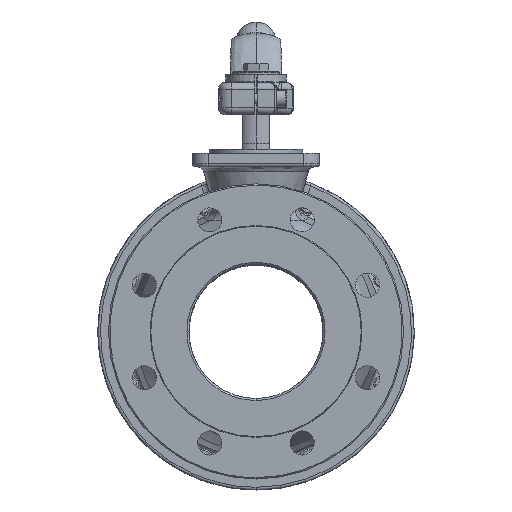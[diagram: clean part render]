
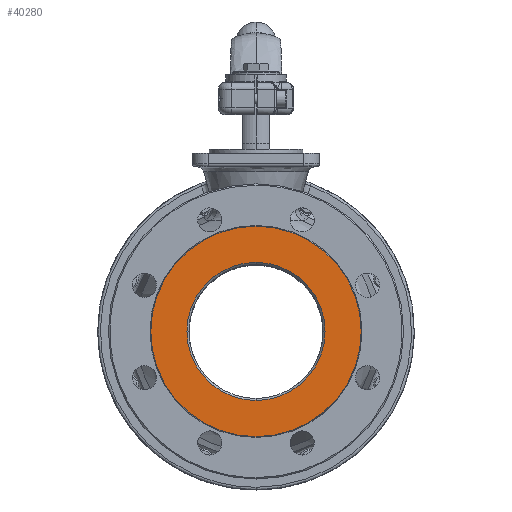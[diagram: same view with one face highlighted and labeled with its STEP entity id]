
A CAD part, top view. The second image highlights one B-rep face of the part: STEP entity #40280.
In plain terms, the highlighted planar face has unit normal (0, 0, 1) as drawn and (0, -1, 0) by its records, which use the part's own axes.
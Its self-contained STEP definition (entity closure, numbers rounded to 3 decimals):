
#1611 = FACE_OUTER_BOUND ( 'NONE', #18026, .T. ) ;
#2342 = AXIS2_PLACEMENT_3D ( 'NONE', #36903, #17457, #40183 ) ;
#4089 = ORIENTED_EDGE ( 'NONE', *, *, #7614, .F. ) ;
#5071 = CIRCLE ( 'NONE', #24831, 78.464 ) ;
#6629 = DIRECTION ( 'NONE',  ( 0., -1., 0. ) ) ;
#7527 = VERTEX_POINT ( 'NONE', #32490 ) ;
#7614 = EDGE_CURVE ( 'NONE', #7527, #13626, #42167, .T. ) ;
#8034 = DIRECTION ( 'NONE',  ( 0., 0., -1. ) ) ;
#9266 = EDGE_CURVE ( 'NONE', #34517, #14663, #17742, .T. ) ;
#13626 = VERTEX_POINT ( 'NONE', #19838 ) ;
#14663 = VERTEX_POINT ( 'NONE', #41207 ) ;
#17457 = DIRECTION ( 'NONE',  ( 0., -1., 0. ) ) ;
#17516 = DIRECTION ( 'NONE',  ( 0., -1., 0. ) ) ;
#17742 = CIRCLE ( 'NONE', #2342, 78.464 ) ;
#18026 = EDGE_LOOP ( 'NONE', ( #20690, #26593 ) ) ;
#18058 = DIRECTION ( 'NONE',  ( 0., -1., 0. ) ) ;
#19253 = FACE_BOUND ( 'NONE', #33770, .T. ) ;
#19838 = CARTESIAN_POINT ( 'NONE',  ( -0.006, -69., -60.464 ) ) ;
#20372 = AXIS2_PLACEMENT_3D ( 'NONE', #26282, #6629, #29544 ) ;
#20690 = ORIENTED_EDGE ( 'NONE', *, *, #9266, .T. ) ;
#21155 = CARTESIAN_POINT ( 'NONE',  ( -0.006, -69., -48.196 ) ) ;
#21996 = CIRCLE ( 'NONE', #29167, 51.5 ) ;
#22466 = ORIENTED_EDGE ( 'NONE', *, *, #34527, .F. ) ;
#23925 = CARTESIAN_POINT ( 'NONE',  ( -78.47, -69., -8.964 ) ) ;
#24831 = AXIS2_PLACEMENT_3D ( 'NONE', #37494, #18058, #40774 ) ;
#26282 = CARTESIAN_POINT ( 'NONE',  ( -0.006, -69., -8.964 ) ) ;
#26593 = ORIENTED_EDGE ( 'NONE', *, *, #31469, .T. ) ;
#27522 = PLANE ( 'NONE',  #42010 ) ;
#27662 = DIRECTION ( 'NONE',  ( 0., -1., 0. ) ) ;
#29167 = AXIS2_PLACEMENT_3D ( 'NONE', #36960, #17516, #40237 ) ;
#29544 = DIRECTION ( 'NONE',  ( 0., 0., -1. ) ) ;
#31469 = EDGE_CURVE ( 'NONE', #14663, #34517, #5071, .T. ) ;
#32490 = CARTESIAN_POINT ( 'NONE',  ( -0.006, -69., 42.536 ) ) ;
#33770 = EDGE_LOOP ( 'NONE', ( #22466, #4089 ) ) ;
#34517 = VERTEX_POINT ( 'NONE', #23925 ) ;
#34527 = EDGE_CURVE ( 'NONE', #13626, #7527, #21996, .T. ) ;
#36903 = CARTESIAN_POINT ( 'NONE',  ( -0.006, -69., -8.964 ) ) ;
#36960 = CARTESIAN_POINT ( 'NONE',  ( -0.006, -69., -8.964 ) ) ;
#37494 = CARTESIAN_POINT ( 'NONE',  ( -0.006, -69., -8.964 ) ) ;
#40183 = DIRECTION ( 'NONE',  ( -1., 0., 0. ) ) ;
#40237 = DIRECTION ( 'NONE',  ( 0., 0., -1. ) ) ;
#40280 = ADVANCED_FACE ( 'NONE', ( #19253, #1611 ), #27522, .T. ) ;
#40774 = DIRECTION ( 'NONE',  ( -1., 0., 0. ) ) ;
#41207 = CARTESIAN_POINT ( 'NONE',  ( 78.458, -69., -8.964 ) ) ;
#42010 = AXIS2_PLACEMENT_3D ( 'NONE', #21155, #27662, #8034 ) ;
#42167 = CIRCLE ( 'NONE', #20372, 51.5 ) ;
